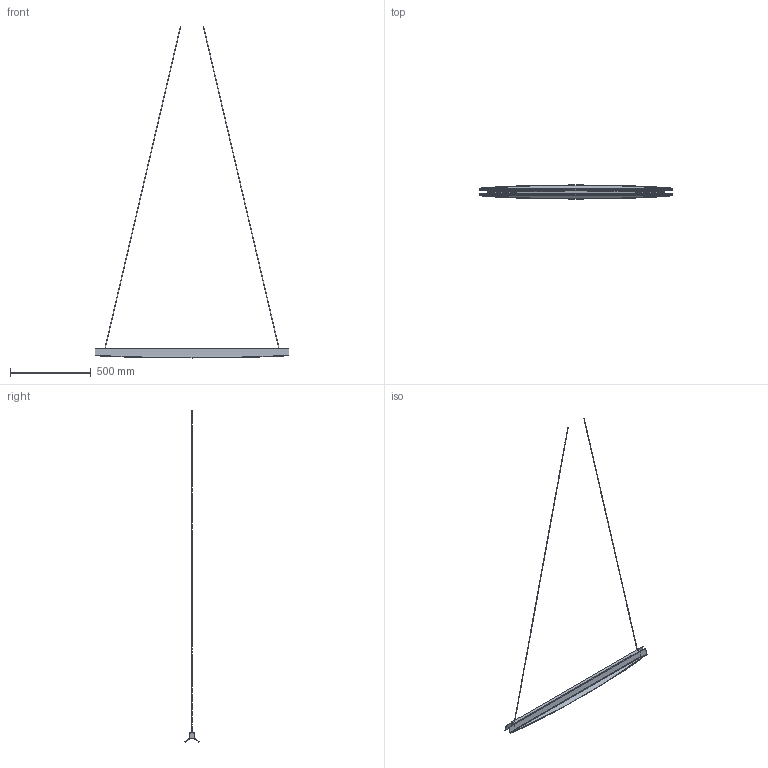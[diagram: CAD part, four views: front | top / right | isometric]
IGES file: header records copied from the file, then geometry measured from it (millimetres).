
Global section: file name: /Users/064_p/Desktop/3d data_02/ILKW_TRYANGLE120_A_Pendant_3D.igs; native system: Rhinoceros ( Jul  7 2025 ); preprocessor: Trout Lake IGES 012 Jul  7 2025; date: 260828.090042; units: millimetre
Bounding box: 1199.6 x 87.64 x 2061.73 mm (x, y, z)
Surface area: 529927.2 mm2 (no closed solid volume)
Topology: 0 solids, 0 shells, 82 faces, 460 edges, 464 vertices
Faces by surface type: bspline 82
